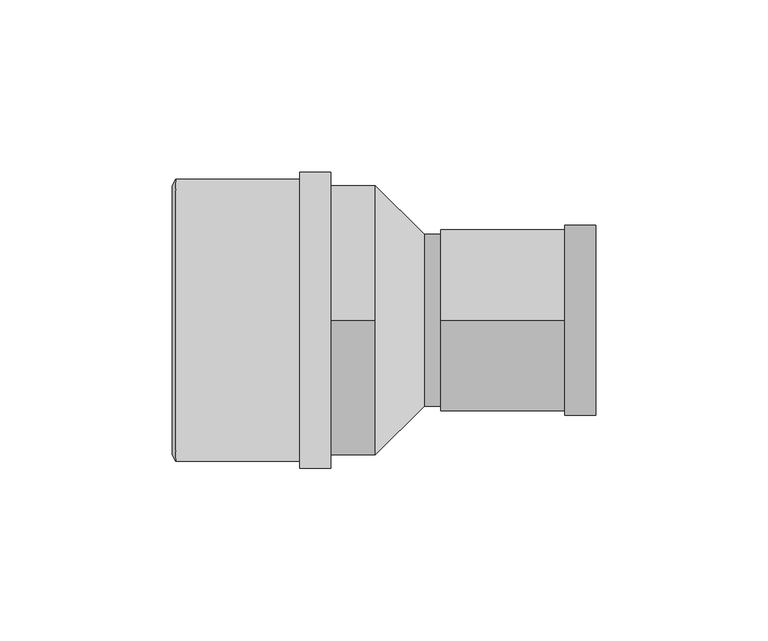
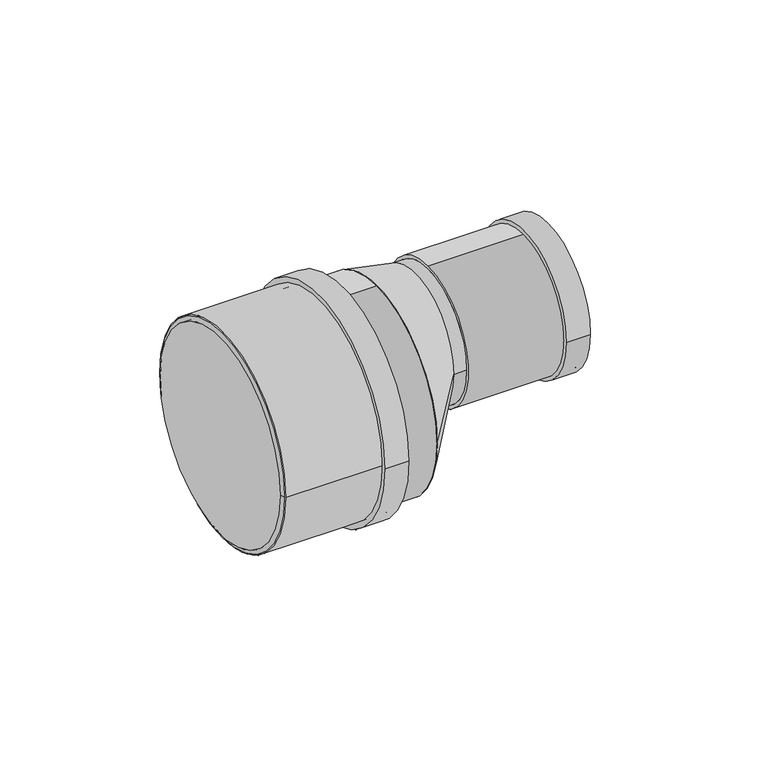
"""IFC4 building model written with IfcOpenShell, lengths in millimetres: pipe fitting geometry, Superdrain SK Reduction to HT : Superdrain SK Reduction to HT."""

from ifc_helpers import new_model, si_unit, point, frame, frame_2d, origin, origin_2d, place, context, project, spatial, polyline, circle_curve, trimmed, segment, composite_curve, outline, extrude, source, transform, mapped, element, save
from ifc_brep_helpers import plane_surface, revolved_surface, spline_surface, advanced_brep


def pipe_fitting_8a9b414e(model_context):
    return source(origin(), model_context, "Body", "SolidModel", [
        extrude(outline(composite_curve([segment(trimmed(circle_curve(frame_2d((0.0, 0.1450234)), 40.95), [point((40.95, 0.1450234))], [point((-40.95, 0.1450234))], False, "CARTESIAN"), True, "CONTINUOUS"), segment(trimmed(circle_curve(frame_2d((0.0, 0.1450234)), 40.95), [point((-40.95, 0.1450234))], [point((40.95, 0.1450234))], False, "CARTESIAN"), True, "CONTINUOUS")], self_intersect=False), holes=[composite_curve([segment(trimmed(circle_curve(frame_2d((0.0, 0.1450234)), 39.0), [point((39.0, 0.1450234))], [point((-39.0, 0.1450234))], True, "CARTESIAN"), True, "CONTINUOUS"), segment(trimmed(circle_curve(frame_2d((0.0, 0.1450234)), 39.0), [point((-39.0, 0.1450234))], [point((39.0, 0.1450234))], True, "CARTESIAN"), True, "CONTINUOUS")], self_intersect=False)]), frame((-58.0, 0.0, 0.0), z_axis=(1.0, 0.0, 0.0), x_axis=(0.0, 1.0, 0.0)), (0.0, 0.0, 1.0), 45.0),
        extrude(outline(composite_curve([segment(trimmed(circle_curve(frame_2d((0.0, 0.1450234)), 42.9975), [point((42.9975, 0.1450234))], [point((-42.9975, 0.1450234))], False, "CARTESIAN"), True, "CONTINUOUS"), segment(trimmed(circle_curve(frame_2d((0.0, 0.1450234)), 42.9975), [point((-42.9975, 0.1450234))], [point((42.9975, 0.1450234))], False, "CARTESIAN"), True, "CONTINUOUS")], self_intersect=False), holes=[composite_curve([segment(trimmed(circle_curve(frame_2d((0.0, 0.1450234)), 39.0), [point((39.0, 0.1450234))], [point((-39.0, 0.1450234))], True, "CARTESIAN"), True, "CONTINUOUS"), segment(trimmed(circle_curve(frame_2d((0.0, 0.1450234)), 39.0), [point((-39.0, 0.1450234))], [point((39.0, 0.1450234))], True, "CARTESIAN"), True, "CONTINUOUS")], self_intersect=False)]), frame((-22.0, 0.0, 0.0), z_axis=(1.0, 0.0, 0.0), x_axis=(0.0, 1.0, 0.0)), (0.0, 0.0, 1.0), 9.0),
        advanced_brep(
        [(-59.0, 39.0, 0.1450234), (-59.0, -39.0, 0.1450234), (-58.0, 40.95, 0.1450234), (-58.0, -40.95, 0.1450234)],
        [
            (0, 1, circle_curve(frame((-59.0, 0.0, 0.1450234), z_axis=(-1.0, 0.0, 0.0), x_axis=(0.0, 1.0000000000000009, 0.0)), 39.0)),
            (1, 0, circle_curve(frame((-59.0, 0.0, 0.1450234), z_axis=(-1.0, 0.0, 0.0), x_axis=(0.0, -1.0000000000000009, 0.0)), 39.0)),
            (2, 3, circle_curve(frame((-58.0, 0.0, 0.1450234), z_axis=(1.0, 0.0, 0.0), x_axis=(0.0, -1.0000000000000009, 0.0)), 40.95)),
            (3, 2, circle_curve(frame((-58.0, 0.0, 0.1450234), z_axis=(1.0, 0.0, 0.0), x_axis=(0.0, 1.0000000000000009, 0.0)), 40.95)),
            (3, 1),
            (0, 2),
        ],
        [
            plane_surface(frame((-59.0, 0.0, 0.1450234), z_axis=(-1.0, 0.0, 0.0), x_axis=(0.0, 0.0, -1.0))),
            plane_surface(frame((-58.0, 0.0, 0.1450234), z_axis=(1.0, 0.0, 0.0), x_axis=(0.0, 0.0, -1.0))),
            revolved_surface(polyline([(-59.0, 38.99999999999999, 0.1450234), (-58.0, 40.95, 0.1450234)]), (-79.0, 0.0, 0.1450234), (1.0000000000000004, 0.0, 0.0)),
            revolved_surface(polyline([(-59.0, -38.99999999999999, 0.1450234), (-58.0, -40.95, 0.1450234)]), (-79.0, 0.0, 0.1450234), (1.0000000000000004, 0.0, 0.0)),
        ],
        [
            (0, [[1, 2]]),
            (1, [[3, 4]]),
            (2, [[-4, 5, -1, 6]]),
            (3, [[-3, -6, -2, -5]]),
        ],
    ),
        advanced_brep(
        [(14.25, -25.0, 14.0), (14.25, 25.0, 14.0), (0.0, -39.0, 0.0), (0.0, 39.0, 0.0)],
        [
            (0, 1, circle_curve(frame((14.25, 0.0, 14.0), z_axis=(1.0, 0.0, 0.0), x_axis=(0.0, 1.0, 0.0)), 25.0)),
            (1, 0, circle_curve(frame((14.25, 0.0, 14.0), z_axis=(1.0, 0.0, 0.0), x_axis=(0.0, 1.0, 0.0)), 25.0)),
            (2, 3, circle_curve(frame((0.0, 0.0, 0.0), z_axis=(-1.0, 0.0, 0.0), x_axis=(0.0, 1.0, 0.0)), 39.0)),
            (3, 2, circle_curve(frame((0.0, 0.0, 0.0), z_axis=(-1.0, 0.0, 0.0), x_axis=(0.0, 1.0, 0.0)), 39.0)),
            (3, 1),
            (0, 2),
        ],
        [
            plane_surface(frame((14.25, 0.0, 14.0), z_axis=(1.0, 0.0, 0.0), x_axis=(0.0, 0.0, -1.0))),
            plane_surface(frame((0.0, 0.0, 0.0), z_axis=(-1.0, 0.0, 0.0), x_axis=(0.0, 0.0, -1.0))),
            spline_surface(2, 1, [[(0.0, -39.0, 0.0), (14.25, -25.0, 14.0)], [(0.0, -39.0, -39.0), (14.25, -25.0, -11.0)], [(0.0, 0.0, -39.0), (14.25, 0.0, -11.0)], [(0.0, 39.0, -39.0), (14.25, 25.0, -11.0)], [(0.0, 39.0, 0.0), (14.25, 25.0, 14.0)]], [3, 2, 3], [2, 2], [0.0, 1.0, 2.0], [0.0, 1.0], weights=[[1.0, 1.0], [0.7071067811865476, 0.7071067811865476], [1.0, 1.0], [0.7071067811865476, 0.7071067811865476], [1.0, 1.0]]),
            spline_surface(2, 1, [[(0.0, 39.0, 0.0), (14.25, 25.0, 14.0)], [(0.0, 39.0, 39.0), (14.25, 25.0, 39.0)], [(0.0, 0.0, 39.0), (14.25, 0.0, 39.0)], [(0.0, -39.0, 39.0), (14.25, -25.0, 39.0)], [(0.0, -39.0, 0.0), (14.25, -25.0, 14.0)]], [3, 2, 3], [2, 2], [0.0, 1.0, 2.0], [0.0, 1.0], weights=[[1.0, 1.0], [0.7071067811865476, 0.7071067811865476], [1.0, 1.0], [0.7071067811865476, 0.7071067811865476], [1.0, 1.0]]),
        ],
        [
            (0, [[1, 2]]),
            (1, [[3, 4]]),
            (2, [[-4, 5, -1, 6]]),
            (3, [[-3, -6, -2, -5]]),
        ],
    ),
        extrude(outline(composite_curve([segment(trimmed(circle_curve(frame_2d((0.0, 14.0)), 25.0), [point((-25.0, 14.0))], [point((25.0, 14.0))], False, "CARTESIAN"), True, "CONTINUOUS"), segment(trimmed(circle_curve(frame_2d((0.0, 14.0)), 25.0), [point((25.0, 14.0))], [point((-25.0, 14.0))], False, "CARTESIAN"), True, "CONTINUOUS")], self_intersect=False)), frame((14.25, 0.0, 0.0), z_axis=(1.0, 0.0, 0.0), x_axis=(0.0, 1.0, 0.0)), (0.0, 0.0, 1.0), 4.75),
        extrude(outline(composite_curve([segment(trimmed(circle_curve(frame_2d((0.0, 14.0)), 27.5625), [point((-27.5625, 14.0))], [point((27.5625, 14.0))], False, "CARTESIAN"), True, "CONTINUOUS"), segment(trimmed(circle_curve(frame_2d((0.0, 14.0)), 27.5625), [point((27.5625, 14.0))], [point((-27.5625, 14.0))], False, "CARTESIAN"), True, "CONTINUOUS")], self_intersect=False), holes=[composite_curve([segment(trimmed(circle_curve(frame_2d((0.0, 14.0)), 25.0), [point((25.0, 14.0))], [point((-25.0, 14.0))], True, "CARTESIAN"), True, "CONTINUOUS"), segment(trimmed(circle_curve(frame_2d((0.0, 14.0)), 25.0), [point((-25.0, 14.0))], [point((25.0, 14.0))], True, "CARTESIAN"), True, "CONTINUOUS")], self_intersect=False)]), frame((55.0, 0.0, 0.0), z_axis=(1.0, 0.0, 0.0), x_axis=(0.0, 1.0, 0.0)), (0.0, 0.0, 1.0), 9.0),
        extrude(outline(composite_curve([segment(trimmed(circle_curve(frame_2d((0.0, 14.0)), 26.25), [point((0.0, 40.25))], [point((0.0, -12.25))], False, "CARTESIAN"), True, "CONTINUOUS"), segment(trimmed(circle_curve(frame_2d((0.0, 14.0)), 26.25), [point((0.0, -12.25))], [point((0.0, 40.25))], False, "CARTESIAN"), True, "CONTINUOUS")], self_intersect=False), holes=[composite_curve([segment(trimmed(circle_curve(frame_2d((0.0, 14.0)), 25.0), [point((25.0, 14.0))], [point((-25.0, 14.0))], True, "CARTESIAN"), True, "CONTINUOUS"), segment(trimmed(circle_curve(frame_2d((0.0, 14.0)), 25.0), [point((-25.0, 14.0))], [point((25.0, 14.0))], True, "CARTESIAN"), True, "CONTINUOUS")], self_intersect=False)]), frame((19.0, 0.0, 0.0), z_axis=(1.0, 0.0, 0.0), x_axis=(0.0, 1.0, 0.0)), (0.0, 0.0, 1.0), 45.0),
        extrude(outline(composite_curve([segment(trimmed(circle_curve(origin_2d(), 39.0), [point((0.0, 39.0))], [point((0.0, -39.0))], False, "CARTESIAN"), True, "CONTINUOUS"), segment(trimmed(circle_curve(origin_2d(), 39.0), [point((0.0, -39.0))], [point((0.0, 39.0))], False, "CARTESIAN"), True, "CONTINUOUS")], self_intersect=False)), frame((-58.0, 0.0, 0.0), z_axis=(1.0, 0.0, 0.0), x_axis=(0.0, 1.0, 0.0)), (0.0, 0.0, 1.0), 58.0),
    ])


if __name__ == "__main__":
    model = new_model("IFC4")
    model_context = context("Model", 3, world=origin())
    ifc_project = project(units=[si_unit("LENGTHUNIT", "METRE", prefix="MILLI")], contexts=[model_context])
    site = spatial("IfcSite", under=ifc_project)
    building = spatial("IfcBuilding", under=site)
    placement = place(None, origin())
    pipe_fitting_shape = pipe_fitting_8a9b414e(model_context)
    element("IfcPipeFitting", 1, ObjectType="Superdrain SK Reduction to HT : Superdrain SK Reduction to HT", at=placement, inside=building, context=model_context, shape_type="MappedRepresentation", body=[
        mapped(pipe_fitting_shape, transform((0.0, 0.0, 0.0), x_axis=(1.0, 0.0, 0.0), y_axis=(0.0, 1.0, 0.0), z_axis=(0.0, 0.0, 1.0))),
    ])
    save(model, "model.ifc")
